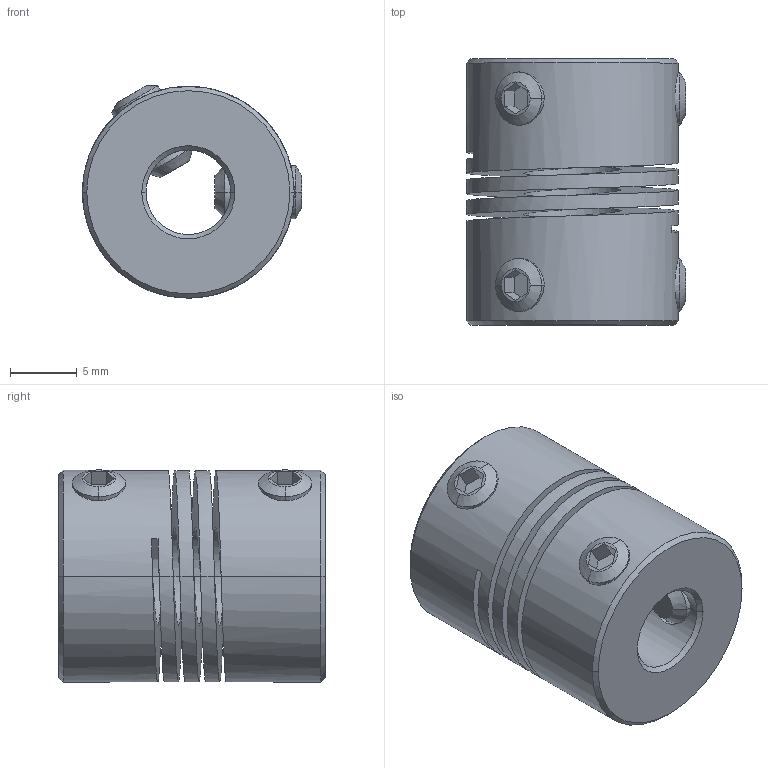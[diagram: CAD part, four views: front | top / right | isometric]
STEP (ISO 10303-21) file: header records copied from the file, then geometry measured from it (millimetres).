
FILE_DESCRIPTION((''),'2;1');
FILE_NAME('826_16_ASM','2006-12-06T',('Gary Melling'),(''),'PRO/ENGINEER BY PARAMETRIC TECHNOLOGY CORPORATION, 2006240','PRO/ENGINEER BY PARAMETRIC TECHNOLOGY CORPORATION, 2006240','');
FILE_SCHEMA(('CONFIG_CONTROL_DESIGN'));
Length unit declared in the file: millimetre
Products named in the file (3): 826_16; GS_4; 826_16_ASM
Assembly tree (5 placements, depth 2):
  826_16_ASM
    826_16
    GS_4  x4
Bounding box: 16.45 x 20 x 15.94 mm (x, y, z)
Volume: 3003.7 mm3; surface area: 3327.5 mm2
Topology: 5 solids, 5 shells, 106 faces, 264 edges, 168 vertices
Faces by surface type: plane 42, cylinder 38, cone 24, bspline 2
Entity records: 3454 total; most frequent: CARTESIAN_POINT 1871, ORIENTED_EDGE 336, DIRECTION 274, EDGE_CURVE 168, VERTEX_POINT 108, AXIS2_PLACEMENT_3D 99, VECTOR 76, LINE 76
